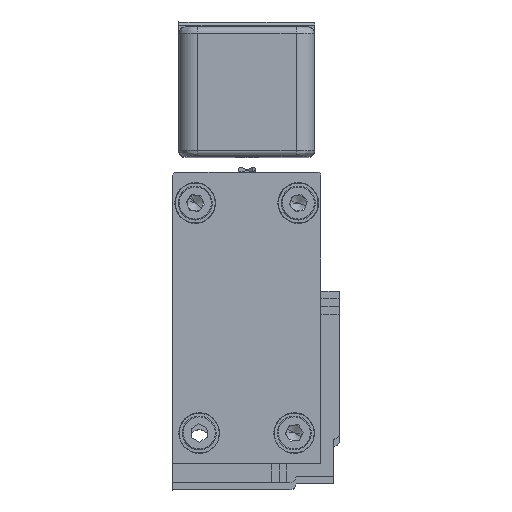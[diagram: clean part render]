
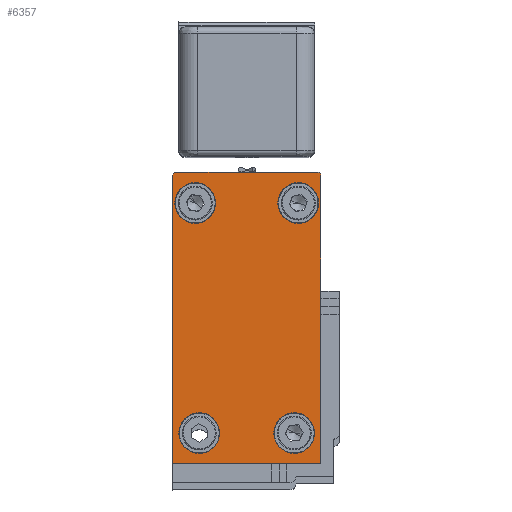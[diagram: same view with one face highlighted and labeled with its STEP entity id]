
A CAD part, top view. The second image highlights one B-rep face of the part: STEP entity #6357.
In plain terms, the highlighted planar face has unit normal (0, 0, 1).
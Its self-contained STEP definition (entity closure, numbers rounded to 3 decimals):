
#416 = ORIENTED_EDGE ( 'NONE', *, *, #23485, .T. ) ;
#1055 = ORIENTED_EDGE ( 'NONE', *, *, #31953, .T. ) ;
#1163 = DIRECTION ( 'NONE',  ( -1., 0., 0. ) ) ;
#1314 = EDGE_LOOP ( 'NONE', ( #416, #26145 ) ) ;
#1448 = ORIENTED_EDGE ( 'NONE', *, *, #15778, .T. ) ;
#1800 = EDGE_CURVE ( 'NONE', #3596, #20157, #9475, .T. ) ;
#2067 = DIRECTION ( 'NONE',  ( 0., 0., -1. ) ) ;
#2242 = DIRECTION ( 'NONE',  ( -1., 0., 0. ) ) ;
#2268 = EDGE_CURVE ( 'NONE', #20235, #13172, #25628, .T. ) ;
#2431 = EDGE_CURVE ( 'NONE', #8961, #20235, #23613, .T. ) ;
#2577 = EDGE_CURVE ( 'NONE', #4649, #3845, #18198, .T. ) ;
#3431 = CARTESIAN_POINT ( 'NONE',  ( 5.984, 25.871, 3185. ) ) ;
#3535 = AXIS2_PLACEMENT_3D ( 'NONE', #31717, #16933, #2242 ) ;
#3594 = VERTEX_POINT ( 'NONE', #28612 ) ;
#3596 = VERTEX_POINT ( 'NONE', #16286 ) ;
#3845 = VERTEX_POINT ( 'NONE', #17811 ) ;
#4103 = FACE_OUTER_BOUND ( 'NONE', #7799, .T. ) ;
#4649 = VERTEX_POINT ( 'NONE', #13016 ) ;
#4969 = CARTESIAN_POINT ( 'NONE',  ( -18.014, -20.888, 3185. ) ) ;
#5908 = CIRCLE ( 'NONE', #31332, 3.302 ) ;
#6189 = CIRCLE ( 'NONE', #31176, 3.302 ) ;
#6357 = ADVANCED_FACE ( 'NONE', ( #10629, #28789, #29541, #9831, #4103 ), #11468, .T. ) ;
#6384 = CARTESIAN_POINT ( 'NONE',  ( -17.514, 25.871, 3185. ) ) ;
#6626 = DIRECTION ( 'NONE',  ( 0., 0., 1. ) ) ;
#7274 = CARTESIAN_POINT ( 'NONE',  ( -13.714, -15.887, 3185. ) ) ;
#7546 = DIRECTION ( 'NONE',  ( 0., 0., -1. ) ) ;
#7799 = EDGE_LOOP ( 'NONE', ( #8575, #30909, #27908, #15842, #19135, #25477, #25166 ) ) ;
#8466 = AXIS2_PLACEMENT_3D ( 'NONE', #6384, #23637, #8849 ) ;
#8575 = ORIENTED_EDGE ( 'NONE', *, *, #1800, .T. ) ;
#8642 = VERTEX_POINT ( 'NONE', #22077 ) ;
#8832 = EDGE_CURVE ( 'NONE', #25524, #3596, #13571, .T. ) ;
#8849 = DIRECTION ( 'NONE',  ( 0., 1., 0. ) ) ;
#8961 = VERTEX_POINT ( 'NONE', #3431 ) ;
#9396 = DIRECTION ( 'NONE',  ( 0., 0., -1. ) ) ;
#9400 = CARTESIAN_POINT ( 'NONE',  ( -0.967, 21.401, 3185. ) ) ;
#9475 = LINE ( 'NONE', #19258, #27680 ) ;
#9722 = CIRCLE ( 'NONE', #30380, 3.302 ) ;
#9736 = DIRECTION ( 'NONE',  ( -1., 0., 0. ) ) ;
#9831 = FACE_BOUND ( 'NONE', #1314, .T. ) ;
#9951 = CIRCLE ( 'NONE', #8466, 0.5 ) ;
#10629 = FACE_BOUND ( 'NONE', #28603, .T. ) ;
#10732 = AXIS2_PLACEMENT_3D ( 'NONE', #26321, #11552, #28823 ) ;
#10844 = VERTEX_POINT ( 'NONE', #15428 ) ;
#11005 = AXIS2_PLACEMENT_3D ( 'NONE', #21425, #6626, #23889 ) ;
#11234 = LINE ( 'NONE', #15540, #23603 ) ;
#11262 = DIRECTION ( 'NONE',  ( 0., 1., 0. ) ) ;
#11277 = CIRCLE ( 'NONE', #21218, 3.302 ) ;
#11468 = PLANE ( 'NONE',  #11005 ) ;
#11552 = DIRECTION ( 'NONE',  ( 0., 0., 1. ) ) ;
#11725 = CARTESIAN_POINT ( 'NONE',  ( 5.984, 7.11, 3185. ) ) ;
#12720 = CARTESIAN_POINT ( 'NONE',  ( 2.335, 21.401, 3185. ) ) ;
#13016 = CARTESIAN_POINT ( 'NONE',  ( -11.063, 21.401, 3185. ) ) ;
#13124 = DIRECTION ( 'NONE',  ( 0., 0., -1. ) ) ;
#13155 = CARTESIAN_POINT ( 'NONE',  ( 1.676, -15.887, 3185. ) ) ;
#13172 = VERTEX_POINT ( 'NONE', #14847 ) ;
#13569 = CARTESIAN_POINT ( 'NONE',  ( 5.637, 21.401, 3185. ) ) ;
#13571 = LINE ( 'NONE', #30057, #25933 ) ;
#14636 = CARTESIAN_POINT ( 'NONE',  ( 5.485, 26.371, 3185. ) ) ;
#14758 = EDGE_CURVE ( 'NONE', #20157, #8961, #21436, .T. ) ;
#14847 = CARTESIAN_POINT ( 'NONE',  ( -17.514, 26.371, 3185. ) ) ;
#15242 = DIRECTION ( 'NONE',  ( -1., 0., 0. ) ) ;
#15395 = DIRECTION ( 'NONE',  ( 1., 0., 0. ) ) ;
#15428 = CARTESIAN_POINT ( 'NONE',  ( -17.017, -15.887, 3185. ) ) ;
#15540 = CARTESIAN_POINT ( 'NONE',  ( -18.014, 25.871, 3185. ) ) ;
#15583 = EDGE_CURVE ( 'NONE', #22467, #31697, #11277, .T. ) ;
#15648 = DIRECTION ( 'NONE',  ( -1., 0., 0. ) ) ;
#15778 = EDGE_CURVE ( 'NONE', #3594, #16567, #17438, .T. ) ;
#15842 = ORIENTED_EDGE ( 'NONE', *, *, #2268, .T. ) ;
#16286 = CARTESIAN_POINT ( 'NONE',  ( 5.984, -20.888, 3185. ) ) ;
#16425 = VERTEX_POINT ( 'NONE', #19582 ) ;
#16567 = VERTEX_POINT ( 'NONE', #30055 ) ;
#16749 = CARTESIAN_POINT ( 'NONE',  ( -14.365, 21.401, 3185. ) ) ;
#16933 = DIRECTION ( 'NONE',  ( 0., 0., -1. ) ) ;
#17265 = AXIS2_PLACEMENT_3D ( 'NONE', #22332, #7546, #24801 ) ;
#17361 = EDGE_CURVE ( 'NONE', #31697, #22467, #6189, .T. ) ;
#17438 = CIRCLE ( 'NONE', #17265, 3.302 ) ;
#17646 = EDGE_CURVE ( 'NONE', #16425, #13172, #9951, .T. ) ;
#17811 = CARTESIAN_POINT ( 'NONE',  ( -17.667, 21.401, 3185. ) ) ;
#18045 = DIRECTION ( 'NONE',  ( 0., -1., 0. ) ) ;
#18198 = CIRCLE ( 'NONE', #3535, 3.302 ) ;
#19135 = ORIENTED_EDGE ( 'NONE', *, *, #17646, .F. ) ;
#19230 = DIRECTION ( 'NONE',  ( -1., 0., 0. ) ) ;
#19258 = CARTESIAN_POINT ( 'NONE',  ( 5.984, -20.888, 3185. ) ) ;
#19582 = CARTESIAN_POINT ( 'NONE',  ( -18.014, 25.871, 3185. ) ) ;
#20157 = VERTEX_POINT ( 'NONE', #11725 ) ;
#20235 = VERTEX_POINT ( 'NONE', #14636 ) ;
#20856 = CARTESIAN_POINT ( 'NONE',  ( 5.485, 26.371, 3185. ) ) ;
#21055 = AXIS2_PLACEMENT_3D ( 'NONE', #13155, #30450, #15648 ) ;
#21066 = CIRCLE ( 'NONE', #26952, 3.302 ) ;
#21218 = AXIS2_PLACEMENT_3D ( 'NONE', #24191, #9396, #26660 ) ;
#21425 = CARTESIAN_POINT ( 'NONE',  ( -18.014, -20.888, 3185. ) ) ;
#21436 = LINE ( 'NONE', #25929, #26406 ) ;
#22077 = CARTESIAN_POINT ( 'NONE',  ( -10.412, -15.887, 3185. ) ) ;
#22332 = CARTESIAN_POINT ( 'NONE',  ( 1.676, -15.887, 3185. ) ) ;
#22467 = VERTEX_POINT ( 'NONE', #9400 ) ;
#22919 = ORIENTED_EDGE ( 'NONE', *, *, #2577, .T. ) ;
#23485 = EDGE_CURVE ( 'NONE', #10844, #8642, #9722, .T. ) ;
#23603 = VECTOR ( 'NONE', #18045, 1000. ) ;
#23613 = CIRCLE ( 'NONE', #10732, 0.5 ) ;
#23637 = DIRECTION ( 'NONE',  ( 0., 0., -1. ) ) ;
#23889 = DIRECTION ( 'NONE',  ( -1., 0., 0. ) ) ;
#24078 = EDGE_CURVE ( 'NONE', #16425, #25524, #11234, .T. ) ;
#24191 = CARTESIAN_POINT ( 'NONE',  ( 2.335, 21.401, 3185. ) ) ;
#24548 = DIRECTION ( 'NONE',  ( 0., 0., -1. ) ) ;
#24801 = DIRECTION ( 'NONE',  ( -1., 0., 0. ) ) ;
#24863 = VECTOR ( 'NONE', #1163, 1000. ) ;
#25166 = ORIENTED_EDGE ( 'NONE', *, *, #8832, .T. ) ;
#25277 = ORIENTED_EDGE ( 'NONE', *, *, #15583, .T. ) ;
#25477 = ORIENTED_EDGE ( 'NONE', *, *, #24078, .T. ) ;
#25524 = VERTEX_POINT ( 'NONE', #4969 ) ;
#25628 = LINE ( 'NONE', #20856, #24863 ) ;
#25929 = CARTESIAN_POINT ( 'NONE',  ( 5.984, 7.11, 3185. ) ) ;
#25933 = VECTOR ( 'NONE', #15395, 1000. ) ;
#26145 = ORIENTED_EDGE ( 'NONE', *, *, #30647, .T. ) ;
#26177 = EDGE_LOOP ( 'NONE', ( #25277, #26524 ) ) ;
#26321 = CARTESIAN_POINT ( 'NONE',  ( 5.485, 25.871, 3185. ) ) ;
#26406 = VECTOR ( 'NONE', #11262, 1000. ) ;
#26524 = ORIENTED_EDGE ( 'NONE', *, *, #17361, .T. ) ;
#26660 = DIRECTION ( 'NONE',  ( -1., 0., 0. ) ) ;
#26952 = AXIS2_PLACEMENT_3D ( 'NONE', #16749, #2067, #19230 ) ;
#27680 = VECTOR ( 'NONE', #31669, 1000. ) ;
#27908 = ORIENTED_EDGE ( 'NONE', *, *, #2431, .T. ) ;
#27952 = CARTESIAN_POINT ( 'NONE',  ( -13.714, -15.887, 3185. ) ) ;
#28603 = EDGE_LOOP ( 'NONE', ( #29755, #22919 ) ) ;
#28612 = CARTESIAN_POINT ( 'NONE',  ( 4.978, -15.887, 3185. ) ) ;
#28627 = EDGE_CURVE ( 'NONE', #3845, #4649, #21066, .T. ) ;
#28789 = FACE_BOUND ( 'NONE', #26177, .T. ) ;
#28823 = DIRECTION ( 'NONE',  ( 0., 1., 0. ) ) ;
#29541 = FACE_BOUND ( 'NONE', #30404, .T. ) ;
#29755 = ORIENTED_EDGE ( 'NONE', *, *, #28627, .T. ) ;
#30005 = DIRECTION ( 'NONE',  ( 0., 0., -1. ) ) ;
#30055 = CARTESIAN_POINT ( 'NONE',  ( -1.626, -15.887, 3185. ) ) ;
#30057 = CARTESIAN_POINT ( 'NONE',  ( -18.014, -20.888, 3185. ) ) ;
#30380 = AXIS2_PLACEMENT_3D ( 'NONE', #27952, #13124, #30422 ) ;
#30404 = EDGE_LOOP ( 'NONE', ( #1055, #1448 ) ) ;
#30422 = DIRECTION ( 'NONE',  ( -1., 0., 0. ) ) ;
#30450 = DIRECTION ( 'NONE',  ( 0., 0., -1. ) ) ;
#30647 = EDGE_CURVE ( 'NONE', #8642, #10844, #5908, .T. ) ;
#30909 = ORIENTED_EDGE ( 'NONE', *, *, #14758, .T. ) ;
#31176 = AXIS2_PLACEMENT_3D ( 'NONE', #12720, #30005, #15242 ) ;
#31332 = AXIS2_PLACEMENT_3D ( 'NONE', #7274, #24548, #9736 ) ;
#31588 = CIRCLE ( 'NONE', #21055, 3.302 ) ;
#31669 = DIRECTION ( 'NONE',  ( 0., 1., 0. ) ) ;
#31697 = VERTEX_POINT ( 'NONE', #13569 ) ;
#31717 = CARTESIAN_POINT ( 'NONE',  ( -14.365, 21.401, 3185. ) ) ;
#31953 = EDGE_CURVE ( 'NONE', #16567, #3594, #31588, .T. ) ;
